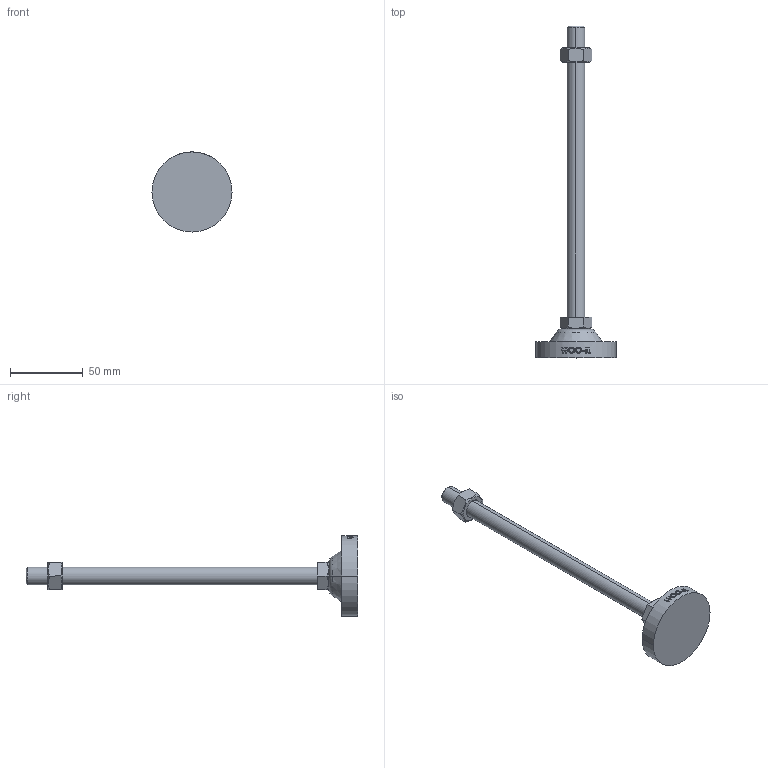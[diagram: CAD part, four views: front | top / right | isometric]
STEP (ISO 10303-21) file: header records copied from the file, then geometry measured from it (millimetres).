
FILE_DESCRIPTION (( 'STEP AP214' ), '1' );
FILE_NAME ('RB55-M12-200.step', '2021-01-18T05:49:13', ( '' ), ( '' ), 'SwSTEP 2.0', 'SolidWorks 2019', '' );
FILE_SCHEMA (( 'AUTOMOTIVE_DESIGN' ));
Length unit declared in the file: millimetre
Products named in the file (2): RB55-M12-200
Bounding box: 55 x 228 x 55 mm (x, y, z)
Volume: 56582.9 mm3; surface area: 18186.8 mm2
Topology: 2 solids, 3 shells, 128 faces, 317 edges, 206 vertices
Faces by surface type: plane 48, cylinder 42, bspline 18, cone 16, torus 4
Entity records: 5349 total; most frequent: CARTESIAN_POINT 2507, ORIENTED_EDGE 634, DIRECTION 479, EDGE_CURVE 317, VERTEX_POINT 206, AXIS2_PLACEMENT_3D 176, EDGE_LOOP 141, FACE_OUTER_BOUND 128
